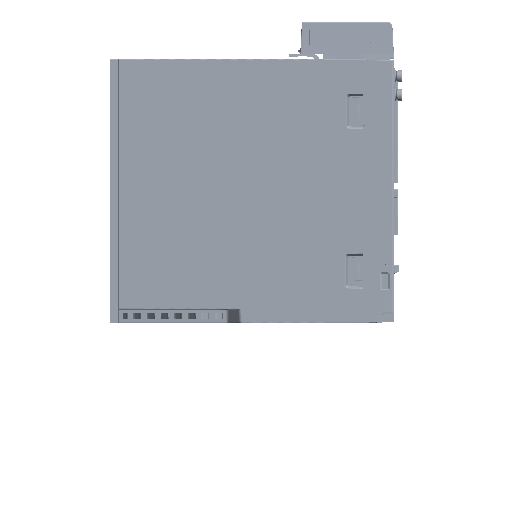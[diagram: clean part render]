
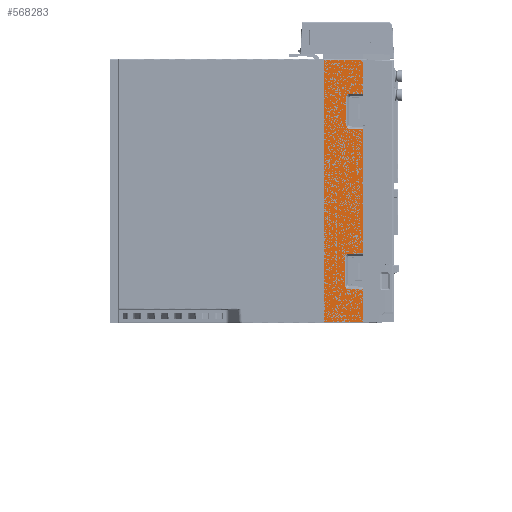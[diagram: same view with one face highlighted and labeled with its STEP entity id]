
A CAD part, left-side view. The second image highlights one B-rep face of the part: STEP entity #568283.
In plain terms, the highlighted planar face has unit normal (-1, 0, 0).
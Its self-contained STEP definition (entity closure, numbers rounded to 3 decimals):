
#530791=DIRECTION('',(0.,-1.,0.));
#530792=VECTOR('',#530791,24.868);
#530793=CARTESIAN_POINT('',(-40.,-46.5,-84.5));
#530794=LINE('',#530793,#530792);
#539950=DIRECTION('',(0.,1.,0.));
#539951=VECTOR('',#539950,24.868);
#539952=CARTESIAN_POINT('',(-40.,-71.368,84.5));
#539953=LINE('',#539952,#539951);
#540276=DIRECTION('',(0.,0.,-1.));
#540277=VECTOR('',#540276,21.545);
#540278=CARTESIAN_POINT('',(-40.,-71.368,-62.955));
#540279=LINE('',#540278,#540277);
#540280=DIRECTION('',(0.,0.,1.));
#540281=VECTOR('',#540280,169.);
#540282=CARTESIAN_POINT('',(-40.,-46.5,-84.5));
#540283=LINE('',#540282,#540281);
#540284=DIRECTION('',(0.,0.,-1.));
#540285=VECTOR('',#540284,21.545);
#540286=CARTESIAN_POINT('',(-40.,-71.368,84.5));
#540287=LINE('',#540286,#540285);
#540288=DIRECTION('',(0.,1.,
-0.028));
#540289=VECTOR('',#540288,8.898);
#540290=CARTESIAN_POINT('',(-40.,-71.368,62.955));
#540291=LINE('',#540290,#540289);
#540292=DIRECTION('',(0.,-1.,
-0.028));
#540293=VECTOR('',#540292,8.898);
#540294=CARTESIAN_POINT('',(-40.,-62.473,40.292));
#540295=LINE('',#540294,#540293);
#540296=DIRECTION('',(0.,0.,-1.));
#540297=VECTOR('',#540296,80.05);
#540298=CARTESIAN_POINT('',(-40.,-71.368,40.045));
#540299=LINE('',#540298,#540297);
#540300=DIRECTION('',(0.,1.,
-0.028));
#540301=VECTOR('',#540300,9.624);
#540302=CARTESIAN_POINT('',(-40.,-71.368,-40.005));
#540303=LINE('',#540302,#540301);
#540304=DIRECTION('',(0.,-1.,
-0.028));
#540305=VECTOR('',#540304,9.624);
#540306=CARTESIAN_POINT('',(-40.,-61.747,-62.688));
#540307=LINE('',#540306,#540305);
#540488=CARTESIAN_POINT('',(-40.,-71.368,62.955));
#540504=CARTESIAN_POINT('',(-40.,-60.789,60.976));
#540505=CARTESIAN_POINT('',(-40.,-60.796,61.196));
#540506=CARTESIAN_POINT('',(-40.,-60.857,61.595));
#540507=CARTESIAN_POINT('',(-40.,-61.081,62.034));
#540508=CARTESIAN_POINT('',(-40.,-61.459,62.412));
#540509=CARTESIAN_POINT('',(-40.,-61.881,62.628));
#540510=CARTESIAN_POINT('',(-40.,-62.263,62.696));
#540511=CARTESIAN_POINT('',(-40.,-62.473,62.708));
#540531=DIRECTION('',(0.,0.,1.));
#540532=VECTOR('',#540531,18.953);
#540533=CARTESIAN_POINT('',(-40.,-60.789,42.024));
#540534=LINE('',#540533,#540532);
#540544=CARTESIAN_POINT('',(-40.,-62.473,40.292));
#540545=CARTESIAN_POINT('',(-40.,-62.254,40.305));
#540546=CARTESIAN_POINT('',(-40.,-61.857,40.377));
#540547=CARTESIAN_POINT('',(-40.,-61.424,40.613));
#540548=CARTESIAN_POINT('',(-40.,-61.057,41.001));
#540549=CARTESIAN_POINT('',(-40.,-60.852,41.429));
#540550=CARTESIAN_POINT('',(-40.,-60.796,41.813));
#540551=CARTESIAN_POINT('',(-40.,-60.789,42.024));
#540580=CARTESIAN_POINT('',(-40.,-71.368,-40.005));
#540614=CARTESIAN_POINT('',(-40.,-60.063,-42.003));
#540615=CARTESIAN_POINT('',(-40.,-60.07,-41.783));
#540616=CARTESIAN_POINT('',(-40.,-60.131,-41.385));
#540617=CARTESIAN_POINT('',(-40.,-60.355,-40.946));
#540618=CARTESIAN_POINT('',(-40.,-60.733,-40.568));
#540619=CARTESIAN_POINT('',(-40.,-61.155,-40.352));
#540620=CARTESIAN_POINT('',(-40.,-61.537,-40.284));
#540621=CARTESIAN_POINT('',(-40.,-61.747,-40.272));
#540627=DIRECTION('',(0.,0.,1.));
#540628=VECTOR('',#540627,18.953);
#540629=CARTESIAN_POINT('',(-40.,-60.063,-60.956));
#540630=LINE('',#540629,#540628);
#540654=CARTESIAN_POINT('',(-40.,-61.747,-62.688));
#540655=CARTESIAN_POINT('',(-40.,-61.528,-62.675));
#540656=CARTESIAN_POINT('',(-40.,-61.131,-62.603));
#540657=CARTESIAN_POINT('',(-40.,-60.698,-62.367));
#540658=CARTESIAN_POINT('',(-40.,-60.331,-61.979));
#540659=CARTESIAN_POINT('',(-40.,-60.126,-61.551));
#540660=CARTESIAN_POINT('',(-40.,-60.069,-61.167));
#540661=CARTESIAN_POINT('',(-40.,-60.063,-60.956));
#550113=CARTESIAN_POINT('',(-40.,-46.5,-84.5));
#550114=VERTEX_POINT('',#550113);
#550115=CARTESIAN_POINT('',(-40.,-71.368,-84.5));
#550116=VERTEX_POINT('',#550115);
#554934=CARTESIAN_POINT('',(-40.,-71.368,-62.955));
#554935=VERTEX_POINT('',#554934);
#554979=VERTEX_POINT('',#540580);
#554980=CARTESIAN_POINT('',(-40.,-71.368,40.045));
#554981=VERTEX_POINT('',#554980);
#555079=VERTEX_POINT('',#540488);
#555080=CARTESIAN_POINT('',(-40.,-71.368,84.5));
#555081=VERTEX_POINT('',#555080);
#555451=CARTESIAN_POINT('',(-40.,-62.473,62.708));
#555452=VERTEX_POINT('',#555451);
#555453=CARTESIAN_POINT('',(-40.,-60.789,60.976));
#555454=VERTEX_POINT('',#555453);
#555455=CARTESIAN_POINT('',(-40.,-60.789,42.024));
#555456=VERTEX_POINT('',#555455);
#555457=CARTESIAN_POINT('',(-40.,-62.473,40.292));
#555458=VERTEX_POINT('',#555457);
#555459=CARTESIAN_POINT('',(-40.,-46.5,84.5));
#555460=VERTEX_POINT('',#555459);
#555461=CARTESIAN_POINT('',(-40.,-61.747,-40.272));
#555462=VERTEX_POINT('',#555461);
#555463=VERTEX_POINT('',#540614);
#555464=CARTESIAN_POINT('',(-40.,-60.063,-60.956));
#555465=VERTEX_POINT('',#555464);
#555466=VERTEX_POINT('',#540654);
#568249=CARTESIAN_POINT('',(-40.,-91.5,-85.));
#568250=DIRECTION('',(-1.,0.,0.));
#568251=DIRECTION('',(0.,0.,-1.));
#568252=AXIS2_PLACEMENT_3D('',#568249,#568250,#568251);
#568253=PLANE('',#568252);
#568254=ORIENTED_EDGE('',*,*,#557962,.T.);
#568255=ORIENTED_EDGE('',*,*,#556308,.F.);
#568257=ORIENTED_EDGE('',*,*,#568256,.T.);
#568258=ORIENTED_EDGE('',*,*,#567834,.F.);
#568259=ORIENTED_EDGE('',*,*,#560651,.T.);
#568261=ORIENTED_EDGE('',*,*,#568260,.T.);
#568263=ORIENTED_EDGE('',*,*,#568262,.F.);
#568265=ORIENTED_EDGE('',*,*,#568264,.F.);
#568267=ORIENTED_EDGE('',*,*,#568266,.F.);
#568269=ORIENTED_EDGE('',*,*,#568268,.T.);
#568270=ORIENTED_EDGE('',*,*,#560095,.T.);
#568272=ORIENTED_EDGE('',*,*,#568271,.T.);
#568274=ORIENTED_EDGE('',*,*,#568273,.F.);
#568276=ORIENTED_EDGE('',*,*,#568275,.F.);
#568278=ORIENTED_EDGE('',*,*,#568277,.F.);
#568280=ORIENTED_EDGE('',*,*,#568279,.T.);
#568281=EDGE_LOOP('',(#568254,#568255,#568257,#568258,#568259,#568261,#568263,
#568265,#568267,#568269,#568270,#568272,#568274,#568276,#568278,#568280));
#568282=FACE_OUTER_BOUND('',#568281,.F.);
#568283=ADVANCED_FACE('',(#568282),#568253,.T.);
#540512=B_SPLINE_CURVE_WITH_KNOTS('',3,(#540504,#540505,#540506,#540507,#540508,
#540509,#540510,#540511),.UNSPECIFIED.,.F.,.F.,(4,1,1,1,1,4),(0.,0.2,0.4,
0.6,0.8,1.),.UNSPECIFIED.);
#540552=B_SPLINE_CURVE_WITH_KNOTS('',3,(#540544,#540545,#540546,#540547,#540548,
#540549,#540550,#540551),.UNSPECIFIED.,.F.,.F.,(4,1,1,1,1,4),(0.,0.2,0.4,
0.6,0.8,1.),.UNSPECIFIED.);
#540622=B_SPLINE_CURVE_WITH_KNOTS('',3,(#540614,#540615,#540616,#540617,#540618,
#540619,#540620,#540621),.UNSPECIFIED.,.F.,.F.,(4,1,1,1,1,4),(0.,0.2,0.4,
0.6,0.8,1.),.UNSPECIFIED.);
#540662=B_SPLINE_CURVE_WITH_KNOTS('',3,(#540654,#540655,#540656,#540657,#540658,
#540659,#540660,#540661),.UNSPECIFIED.,.F.,.F.,(4,1,1,1,1,4),(0.,0.2,0.4,
0.6,0.8,1.),.UNSPECIFIED.);
#556308=EDGE_CURVE('',#550114,#550116,#530794,.T.);
#557962=EDGE_CURVE('',#554935,#550116,#540279,.T.);
#560095=EDGE_CURVE('',#554981,#554979,#540299,.T.);
#560651=EDGE_CURVE('',#555081,#555079,#540287,.T.);
#567834=EDGE_CURVE('',#555081,#555460,#539953,.T.);
#568256=EDGE_CURVE('',#550114,#555460,#540283,.T.);
#568260=EDGE_CURVE('',#555079,#555452,#540291,.T.);
#568262=EDGE_CURVE('',#555454,#555452,#540512,.T.);
#568264=EDGE_CURVE('',#555456,#555454,#540534,.T.);
#568266=EDGE_CURVE('',#555458,#555456,#540552,.T.);
#568268=EDGE_CURVE('',#555458,#554981,#540295,.T.);
#568271=EDGE_CURVE('',#554979,#555462,#540303,.T.);
#568273=EDGE_CURVE('',#555463,#555462,#540622,.T.);
#568275=EDGE_CURVE('',#555465,#555463,#540630,.T.);
#568277=EDGE_CURVE('',#555466,#555465,#540662,.T.);
#568279=EDGE_CURVE('',#555466,#554935,#540307,.T.);
